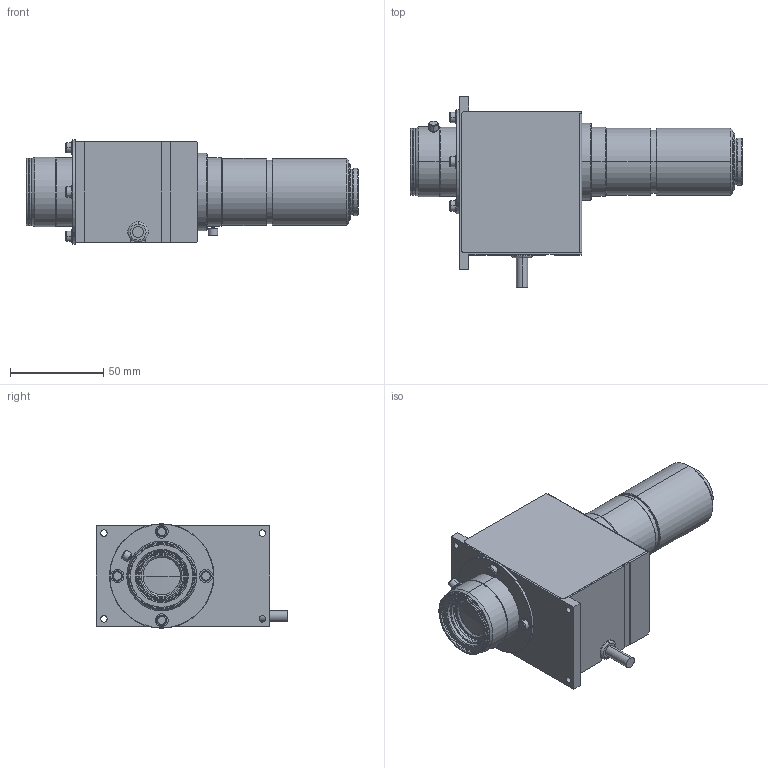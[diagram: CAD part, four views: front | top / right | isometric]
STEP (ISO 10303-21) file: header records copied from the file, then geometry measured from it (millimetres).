
FILE_DESCRIPTION (( 'STEP AP203' ), '1' );
FILE_NAME ('VSZ-0745-MR.STEP', '2015-05-25T04:43:43', ( '' ), ( '' ), 'SwSTEP 2.0', 'SolidWorks 2015', '' );
FILE_SCHEMA (( 'CONFIG_CONTROL_DESIGN' ));
Length unit declared in the file: millimetre
Products named in the file (1): VSZ-0745-MR
Bounding box: 178.07 x 102.5 x 56 mm (x, y, z)
Volume: 425215.4 mm3; surface area: 106227.7 mm2
Topology: 5 solids, 5 shells, 411 faces, 864 edges, 522 vertices
Faces by surface type: cylinder 137, cone 136, plane 122, torus 12, sphere 4
Entity records: 11119 total; most frequent: DIRECTION 2132, CARTESIAN_POINT 1862, ORIENTED_EDGE 1728, EDGE_CURVE 864, AXIS2_PLACEMENT_3D 860, VERTEX_POINT 522, EDGE_LOOP 482, CIRCLE 448
